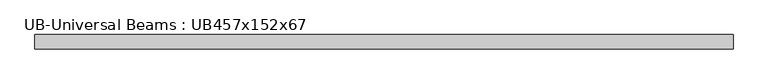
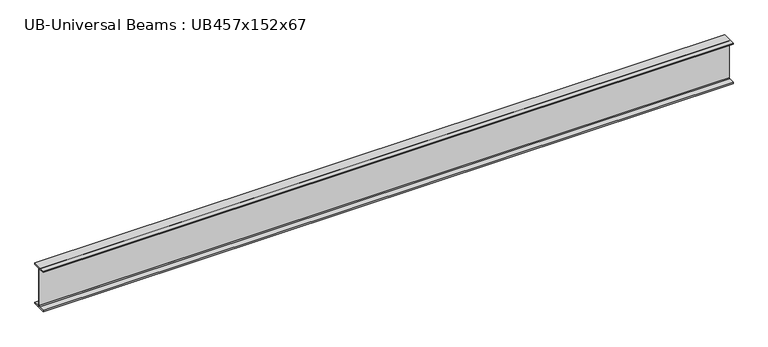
"""IFC4 building model written with IfcOpenShell, lengths in millimetres: beam geometry, UB-Universal Beams : UB457x152x67."""

from ifc_helpers import new_model, si_unit, point, frame, frame_2d, origin, place, context, project, spatial, polyline, circle_curve, trimmed, segment, composite_curve, outline, extrude, source, transform, mapped, element, save


def ub_universal_beams_ub457x152x67_5dccb8d6(model_context):
    return source(origin(), model_context, "Body", "SweptSolid", [
        extrude(outline(composite_curve([segment(polyline([(76.9, -214.0), (76.9, -229.0), (-76.9, -229.0), (-76.9, -214.0), (-14.7, -214.0)]), True, "CONTINUOUS"), segment(trimmed(circle_curve(frame_2d((-14.7, -203.8)), 10.2), [point((-14.7, -214.0))], [point((-4.5, -203.8))], True, "CARTESIAN"), True, "CONTINUOUS"), segment(polyline([(-4.5, -203.8), (-4.5, 203.8)]), True, "CONTINUOUS"), segment(trimmed(circle_curve(frame_2d((-14.7, 203.8)), 10.2), [point((-4.5, 203.8))], [point((-14.7, 214.0))], True, "CARTESIAN"), True, "CONTINUOUS"), segment(polyline([(-14.7, 214.0), (-76.9, 214.0), (-76.9, 229.0), (76.9, 229.0), (76.9, 214.0), (14.7, 214.0)]), True, "CONTINUOUS"), segment(trimmed(circle_curve(frame_2d((14.7, 203.8)), 10.2), [point((14.7, 214.0))], [point((4.5, 203.8))], True, "CARTESIAN"), True, "CONTINUOUS"), segment(polyline([(4.5, 203.8), (4.5, -203.8)]), True, "CONTINUOUS"), segment(trimmed(circle_curve(frame_2d((14.7, -203.8)), 10.2), [point((4.5, -203.8))], [point((14.7, -214.0))], True, "CARTESIAN"), True, "CONTINUOUS"), segment(polyline([(14.7, -214.0), (76.9, -214.0)]), True, "CONTINUOUS")], self_intersect=False)), frame((-3750.0, 0.0, 0.0), z_axis=(1.0, 0.0, 0.0), x_axis=(0.0, 1.0, 0.0)), (0.0, 0.0, 1.0), 7380.3),
    ])


if __name__ == "__main__":
    model = new_model("IFC4")
    model_context = context("Model", 3, world=origin())
    ifc_project = project(units=[si_unit("LENGTHUNIT", "METRE", prefix="MILLI")], contexts=[model_context])
    site = spatial("IfcSite", under=ifc_project)
    building = spatial("IfcBuilding", under=site)
    placement = place(None, origin())
    ub_universal_beams_ub457x152x67_shape = ub_universal_beams_ub457x152x67_5dccb8d6(model_context)
    element("IfcBeam", 1, ObjectType="UB-Universal Beams : UB457x152x67", at=placement, inside=building, context=model_context, shape_type="MappedRepresentation", body=[
        mapped(ub_universal_beams_ub457x152x67_shape, transform((0.0, 0.0, 0.0), x_axis=(1.0, 0.0, 0.0), y_axis=(0.0, 1.0, 0.0), z_axis=(0.0, 0.0, 1.0))),
    ])
    save(model, "model.ifc")
